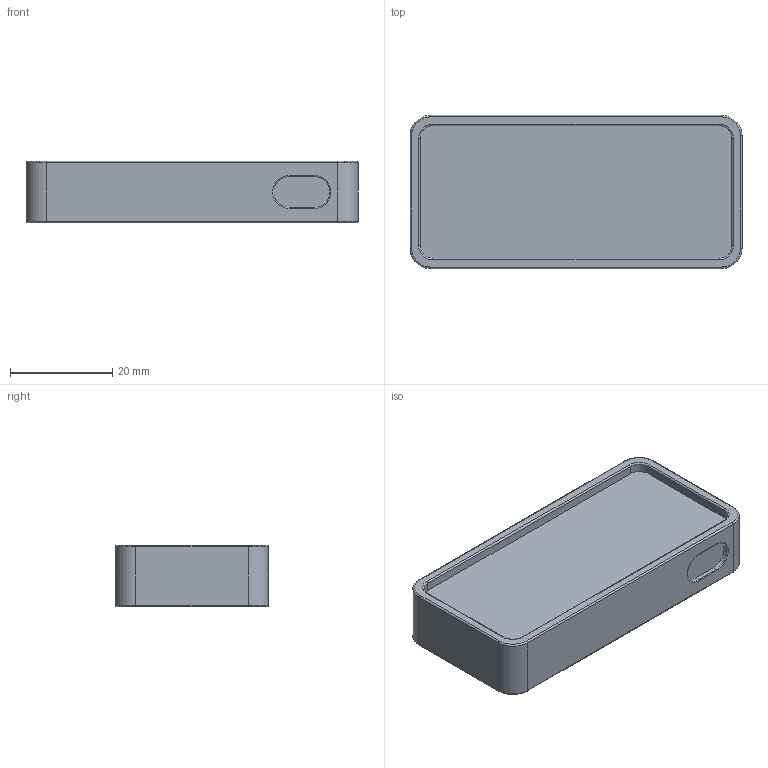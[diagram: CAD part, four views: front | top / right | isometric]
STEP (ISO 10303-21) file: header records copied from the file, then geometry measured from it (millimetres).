
FILE_DESCRIPTION (( 'STEP AP214' ), '1' );
FILE_NAME ('concept2-baseSTEP214.STEP', '2013-11-25T14:13:00', ( '' ), ( '' ), 'SwSTEP 2.0', 'SolidWorks 2012', '' );
FILE_SCHEMA (( 'AUTOMOTIVE_DESIGN' ));
Length unit declared in the file: millimetre
Products named in the file (1): concept2-baseSTEP214
Bounding box: 65 x 30 x 12 mm (x, y, z)
Volume: 19948.2 mm3; surface area: 6401.4 mm2
Topology: 1 solids, 1 shells, 62 faces, 136 edges, 80 vertices
Faces by surface type: cylinder 28, torus 18, plane 16
Entity records: 1736 total; most frequent: DIRECTION 340, CARTESIAN_POINT 279, ORIENTED_EDGE 272, AXIS2_PLACEMENT_3D 141, EDGE_CURVE 136, VERTEX_POINT 80, CIRCLE 78, EDGE_LOOP 66
